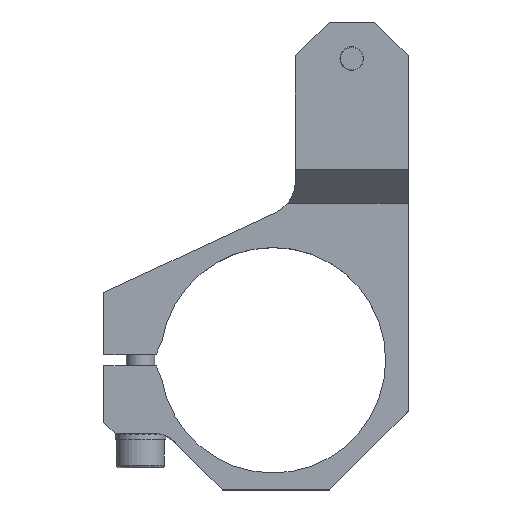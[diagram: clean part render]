
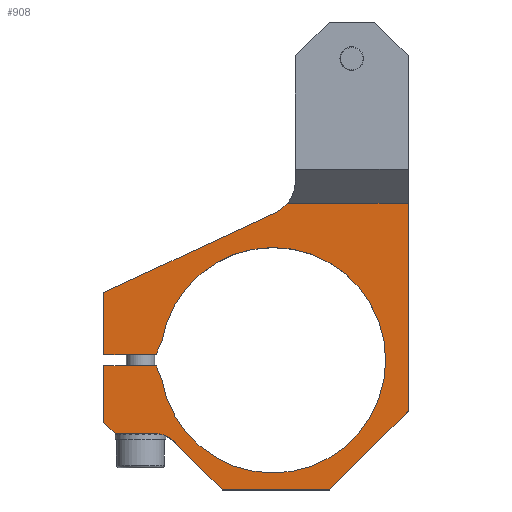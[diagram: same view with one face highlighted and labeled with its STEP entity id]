
A CAD part, top view. The second image highlights one B-rep face of the part: STEP entity #908.
In plain terms, the highlighted planar face has unit normal (0, 0, 1).
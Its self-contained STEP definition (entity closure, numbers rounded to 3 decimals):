
#908=ADVANCED_FACE('',(#1697),#1698,.T.);
#1697=FACE_OUTER_BOUND('',#2490,.T.);
#1698=PLANE('',#2491);
#2490=EDGE_LOOP('',(#4688,#4689,#4690,#4691,#4692,#4693,#4694,#4695,#4696,#4697,#4698,#4699,#4700,#4701,#4702,#4703,#4704));
#2491=AXIS2_PLACEMENT_3D('',#4705,#4706,#4707);
#4688=ORIENTED_EDGE('',*,*,#5871,.F.);
#4689=ORIENTED_EDGE('',*,*,#5872,.F.);
#4690=ORIENTED_EDGE('',*,*,#5873,.F.);
#4691=ORIENTED_EDGE('',*,*,#5874,.F.);
#4692=ORIENTED_EDGE('',*,*,#5875,.T.);
#4693=ORIENTED_EDGE('',*,*,#5876,.F.);
#4694=ORIENTED_EDGE('',*,*,#5877,.F.);
#4695=ORIENTED_EDGE('',*,*,#5878,.F.);
#4696=ORIENTED_EDGE('',*,*,#5879,.F.);
#4697=ORIENTED_EDGE('',*,*,#5880,.F.);
#4698=ORIENTED_EDGE('',*,*,#5881,.F.);
#4699=ORIENTED_EDGE('',*,*,#5882,.F.);
#4700=ORIENTED_EDGE('',*,*,#5883,.F.);
#4701=ORIENTED_EDGE('',*,*,#5884,.T.);
#4702=ORIENTED_EDGE('',*,*,#5885,.F.);
#4703=ORIENTED_EDGE('',*,*,#5886,.T.);
#4704=ORIENTED_EDGE('',*,*,#5887,.F.);
#4705=CARTESIAN_POINT('',(-45.,-18.856,18.0));
#4706=DIRECTION('',(0.0,0.0,1.0));
#4707=DIRECTION('',(0.,-1.0,0.0));
#5871=EDGE_CURVE('',#7253,#7254,#7255,.T.);
#5872=EDGE_CURVE('',#7256,#7253,#7257,.T.);
#5873=EDGE_CURVE('',#7258,#7256,#7259,.T.);
#5874=EDGE_CURVE('',#7260,#7258,#7261,.T.);
#5875=EDGE_CURVE('',#7260,#7262,#7263,.T.);
#5876=EDGE_CURVE('',#7264,#7262,#7265,.T.);
#5877=EDGE_CURVE('',#7266,#7264,#7267,.T.);
#5878=EDGE_CURVE('',#7268,#7266,#7269,.T.);
#5879=EDGE_CURVE('',#7270,#7268,#7271,.T.);
#5880=EDGE_CURVE('',#7272,#7270,#7273,.T.);
#5881=EDGE_CURVE('',#7274,#7272,#7275,.T.);
#5882=EDGE_CURVE('',#7276,#7274,#7277,.T.);
#5883=EDGE_CURVE('',#7278,#7276,#7279,.T.);
#5884=EDGE_CURVE('',#7278,#7280,#7281,.F.);
#5885=EDGE_CURVE('',#7282,#7280,#7283,.T.);
#5886=EDGE_CURVE('',#7282,#7284,#7285,.T.);
#5887=EDGE_CURVE('',#7254,#7284,#7286,.T.);
#7253=VERTEX_POINT('',#9126);
#7254=VERTEX_POINT('',#9127);
#7255=CIRCLE('',#9128,6.2);
#7256=VERTEX_POINT('',#9129);
#7257=CIRCLE('',#9130,20.0);
#7258=VERTEX_POINT('',#9131);
#7259=CIRCLE('',#9132,6.2);
#7260=VERTEX_POINT('',#9133);
#7261=LINE('',#9134,#9135);
#7262=VERTEX_POINT('',#9136);
#7263=LINE('',#9137,#9138);
#7264=VERTEX_POINT('',#9139);
#7265=LINE('',#9140,#9141);
#7266=VERTEX_POINT('',#9142);
#7267=LINE('',#9143,#9144);
#7268=VERTEX_POINT('',#9145);
#7269=CIRCLE('',#9146,4.5);
#7270=VERTEX_POINT('',#9147);
#7271=LINE('',#9148,#9149);
#7272=VERTEX_POINT('',#9150);
#7273=LINE('',#9151,#9152);
#7274=VERTEX_POINT('',#9153);
#7275=LINE('',#9154,#9155);
#7276=VERTEX_POINT('',#9156);
#7277=LINE('',#9157,#9158);
#7278=VERTEX_POINT('',#9159);
#7279=LINE('',#9160,#9161);
#7280=VERTEX_POINT('',#9162);
#7281=CIRCLE('',#9163,6.2);
#7282=VERTEX_POINT('',#9164);
#7283=LINE('',#9165,#9166);
#7284=VERTEX_POINT('',#9167);
#7285=LINE('',#9168,#9169);
#7286=LINE('',#9170,#9171);
#9126=CARTESIAN_POINT('',(-34.718,-14.635,18.0));
#9127=CARTESIAN_POINT('',(-35.619,-16.984,18.0));
#9128=AXIS2_PLACEMENT_3D('',#10458,#10459,#10460);
#9129=CARTESIAN_POINT('',(-34.718,-21.333,18.0));
#9130=AXIS2_PLACEMENT_3D('',#10461,#10462,#10463);
#9131=CARTESIAN_POINT('',(-35.619,-18.984,18.0));
#9132=AXIS2_PLACEMENT_3D('',#10464,#10465,#10466);
#9133=CARTESIAN_POINT('',(-45.,-18.984,18.0));
#9134=CARTESIAN_POINT('',(-39.987,-18.984,18.0));
#9135=VECTOR('',#10467,1.0);
#9136=CARTESIAN_POINT('',(-45.,-28.984,18.0));
#9137=CARTESIAN_POINT('',(-45.,-18.856,18.0));
#9138=VECTOR('',#10468,1.0);
#9139=CARTESIAN_POINT('',(-43.,-30.984,18.0));
#9140=CARTESIAN_POINT('',(-44.,-29.984,18.0));
#9141=VECTOR('',#10469,1.0);
#9142=CARTESIAN_POINT('',(-35.864,-30.984,18.0));
#9143=CARTESIAN_POINT('',(-38.932,-30.984,18.0));
#9144=VECTOR('',#10470,1.0);
#9145=CARTESIAN_POINT('',(-32.682,-32.302,18.0));
#9146=AXIS2_PLACEMENT_3D('',#10471,#10472,#10473);
#9147=CARTESIAN_POINT('',(-24.,-40.984,18.0));
#9148=CARTESIAN_POINT('',(-28.341,-36.643,18.0));
#9149=VECTOR('',#10474,1.0);
#9150=CARTESIAN_POINT('',(-5.,-40.984,18.0));
#9151=CARTESIAN_POINT('',(-14.,-40.984,18.0));
#9152=VECTOR('',#10475,1.0);
#9153=CARTESIAN_POINT('',(9.,-26.984,18.0));
#9154=CARTESIAN_POINT('',(2.,-33.984,18.0));
#9155=VECTOR('',#10476,1.0);
#9156=CARTESIAN_POINT('',(9.,9.871,18.0));
#9157=CARTESIAN_POINT('',(9.,7.516,18.0));
#9158=VECTOR('',#10477,1.0);
#9159=CARTESIAN_POINT('',(-12.421,9.871,18.0));
#9160=CARTESIAN_POINT('',(-45.,9.871,18.0));
#9161=VECTOR('',#10478,1.0);
#9162=CARTESIAN_POINT('',(-14.58,8.201,18.0));
#9163=AXIS2_PLACEMENT_3D('',#10479,#10480,#10481);
#9164=CARTESIAN_POINT('',(-45.,-5.984,18.0));
#9165=CARTESIAN_POINT('',(-28.,1.943,18.0));
#9166=VECTOR('',#10482,1.0);
#9167=CARTESIAN_POINT('',(-45.,-16.984,18.0));
#9168=CARTESIAN_POINT('',(-45.,-18.856,18.0));
#9169=VECTOR('',#10483,1.0);
#9170=CARTESIAN_POINT('',(-39.987,-16.984,18.0));
#9171=VECTOR('',#10484,1.0);
#10458=CARTESIAN_POINT('',(-29.5,-17.984,18.0));
#10459=DIRECTION('',(0.0,0.0,1.0));
#10460=DIRECTION('',(1.0,0.0,0.0));
#10461=CARTESIAN_POINT('',(-15.,-17.984,18.0));
#10462=DIRECTION('',(0.0,0.0,1.0));
#10463=DIRECTION('',(1.0,0.0,0.0));
#10464=CARTESIAN_POINT('',(-29.5,-17.984,18.0));
#10465=DIRECTION('',(0.0,0.0,1.0));
#10466=DIRECTION('',(1.0,0.0,0.0));
#10467=DIRECTION('',(1.0,0.,0.0));
#10468=DIRECTION('',(0.,-1.0,0.0));
#10469=DIRECTION('',(-0.707,0.707,0.0));
#10470=DIRECTION('',(-1.0,0.,0.0));
#10471=CARTESIAN_POINT('',(-35.864,-35.484,18.0));
#10472=DIRECTION('',(0.0,0.0,1.0));
#10473=DIRECTION('',(1.0,0.0,0.0));
#10474=DIRECTION('',(-0.707,0.707,0.0));
#10475=DIRECTION('',(-1.0,0.,0.0));
#10476=DIRECTION('',(-0.707,-0.707,0.0));
#10477=DIRECTION('',(0.,-1.0,0.0));
#10478=DIRECTION('',(1.0,0.,0.0));
#10479=CARTESIAN_POINT('',(-17.2,13.82,18.0));
#10480=DIRECTION('',(0.0,0.0,1.0));
#10481=DIRECTION('',(1.0,0.0,0.0));
#10482=DIRECTION('',(0.906,0.423,0.0));
#10483=DIRECTION('',(0.,-1.0,0.0));
#10484=DIRECTION('',(-1.0,0.,0.0));
